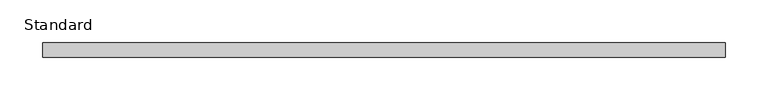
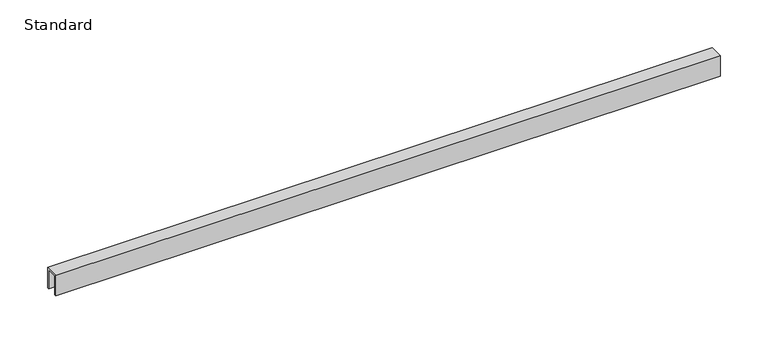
"""IFC4 building model written with IfcOpenShell, lengths in millimetres: furniture geometry, X_Partition-Channel-Duracube-Ceiling : Standard."""

from ifc_helpers import new_model, si_unit, frame, origin, place, context, project, spatial, polyline, outline, extrude, source, transform, mapped, element, save


def standard_1f9b89ca(model_context):
    return source(origin(), model_context, "Body", "SweptSolid", [
        extrude(outline(polyline([(0.0, 0.0), (-2.0, 0.0), (-2.0, 24.0), (-15.0, 24.0), (-15.0, 0.0), (-17.0, 0.0), (-17.0, 26.0), (0.0, 26.0), (0.0, 0.0)])), frame((-356.2996736, 0.0, 0.0), z_axis=(1.0, 0.0, 0.0), x_axis=(0.0, 1.0, 0.0)), (0.0, 0.0, 1.0), 802.0),
    ])


if __name__ == "__main__":
    model = new_model("IFC4")
    model_context = context("Model", 3, world=origin())
    ifc_project = project(units=[si_unit("LENGTHUNIT", "METRE", prefix="MILLI")], contexts=[model_context])
    site = spatial("IfcSite", under=ifc_project)
    building = spatial("IfcBuilding", under=site)
    placement = place(None, origin())
    standard_shape = standard_1f9b89ca(model_context)
    element("IfcFurniture", 1, ObjectType="X_Partition-Channel-Duracube-Ceiling : Standard", at=placement, inside=building, context=model_context, shape_type="MappedRepresentation", body=[
        mapped(standard_shape, transform((0.0, 0.0, 0.0), x_axis=(1.0, 0.0, 0.0), y_axis=(0.0, 1.0, 0.0), z_axis=(0.0, 0.0, 1.0))),
    ])
    save(model, "model.ifc")
